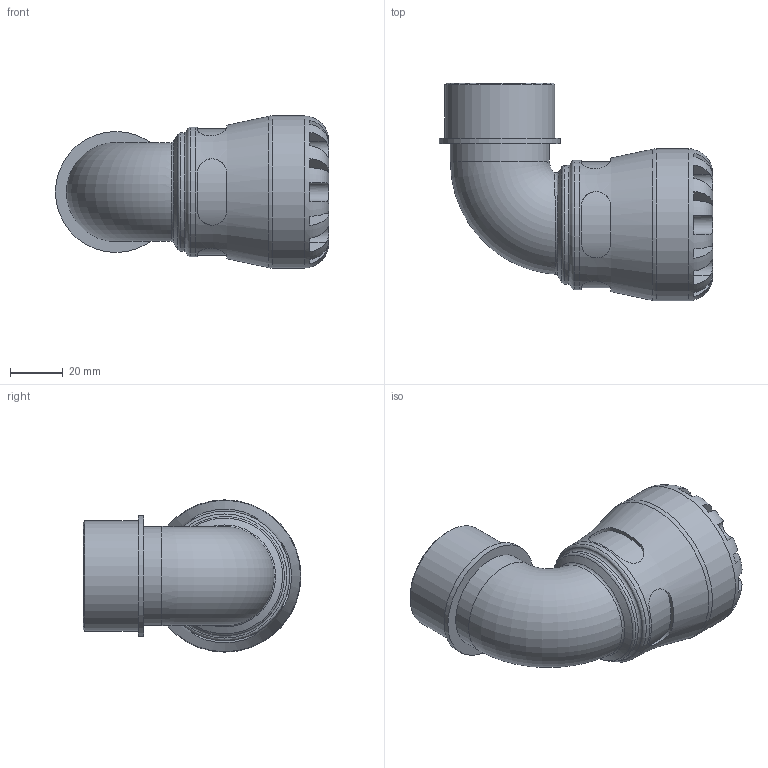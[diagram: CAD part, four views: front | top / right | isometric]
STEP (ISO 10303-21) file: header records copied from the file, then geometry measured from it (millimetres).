
FILE_DESCRIPTION(/* description */ ('PLASSON 90° ELBOW WITH THREADED MALE OFFTAKE 32X1.1/4" SERIES 1'),/* implementation_level */ '2;1');
FILE_NAME(/* name */ 'C:\Dropbox\KIMPROJECTS-Inventor\99-16-3568-Processing\S1\27.01.19\1085\108500032013_198500032013.ipt.stp',/* time_stamp */ '2019-01-27T09:13:35+02:00',/* author */ ('KIM'),/* organization */ (''),/* preprocessor_version */ 'ST-DEVELOPER v15.6',/* originating_system */ 'Autodesk Inventor 2015',/* authorisation */ '');
FILE_SCHEMA (('AUTOMOTIVE_DESIGN { 1 0 10303 214 3 1 1 }'));
Length unit declared in the file: millimetre
Products named in the file (1): 108500032013_198500032013
Bounding box: 104.05 x 83 x 58 mm (x, y, z)
Volume: 115425 mm3; surface area: 34905.5 mm2
Topology: 1 solids, 1 shells, 110 faces, 269 edges, 167 vertices
Faces by surface type: plane 61, cylinder 37, torus 7, bspline 3, cone 2
Full cylindrical faces by diameter (mm): 29.337 x2, 32 x1, 37.719 x1, 41.91 x1, 45.24 x1, 46.101 x1, 49.3 x1, 58 x1
Entity records: 4349 total; most frequent: CARTESIAN_POINT 1809, ORIENTED_EDGE 488, DIRECTION 487, EDGE_CURVE 244, AXIS2_PLACEMENT_3D 203, VERTEX_POINT 161, EDGE_LOOP 137, STYLED_ITEM 111
